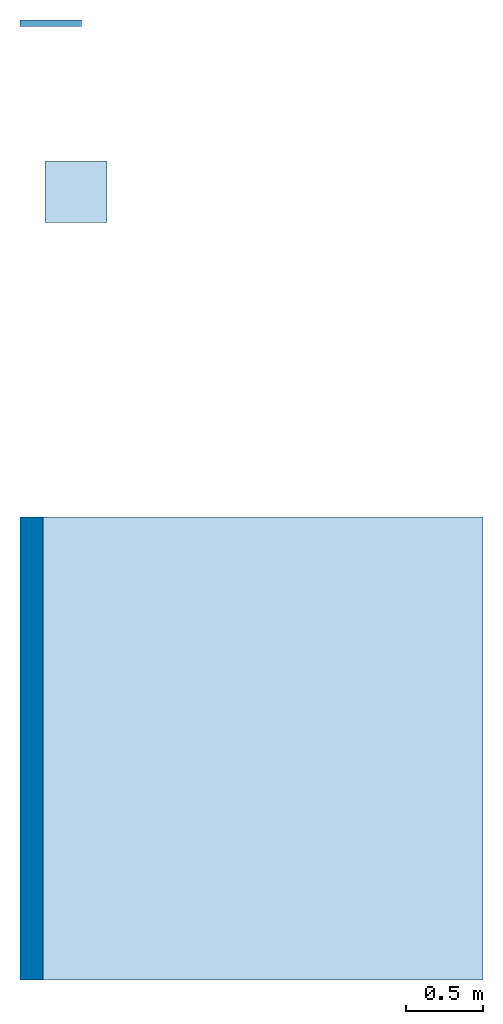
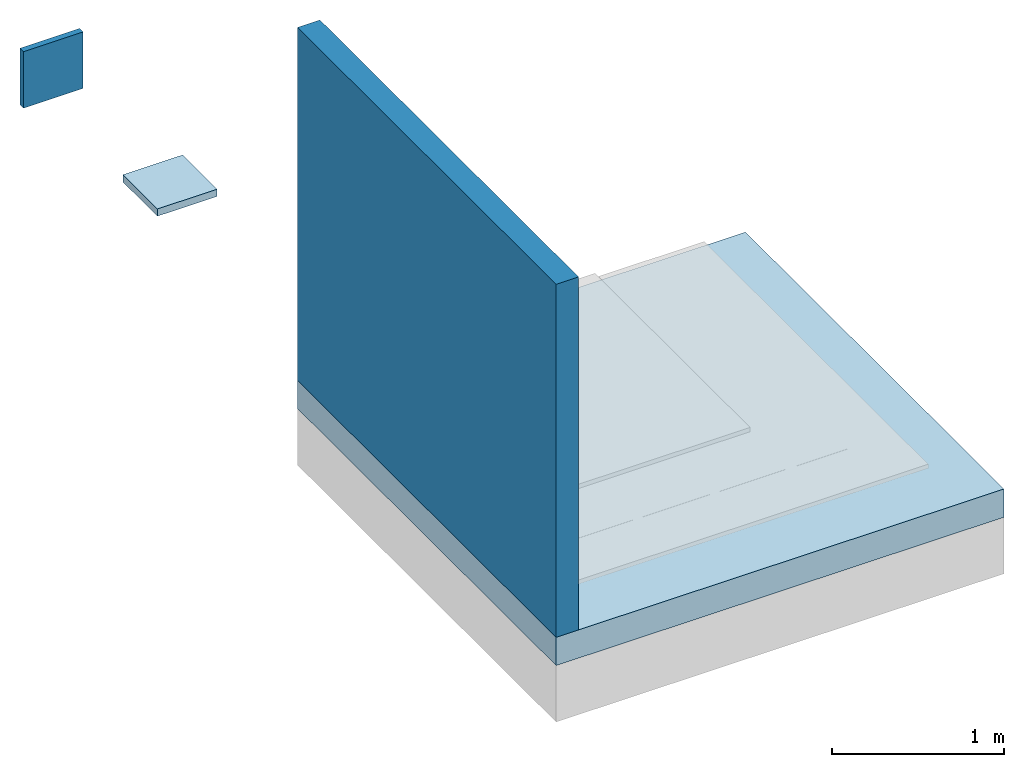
# One storey, part 1 of 2: 2 slabs, 2 walls.
"""IFC2X3 building model written with IfcOpenShell, lengths in metres."""

import ifcopenshell
import ifcopenshell.guid

model = None  # the IFC model being written
_history = None  # IfcOwnerHistory: only IFC2X3 demands one
_inside = {}  # id of a spatial element -> (the spatial element, [elements in it])
_under = {}  # id of a project, library or spatial element -> (it, [spatial elements below it])
_declared = {}  # id of a project -> (the project, [libraries it declares])
_typed = {}  # id of a type object -> (the type object, [elements of that type])
_made_of = {}  # id of a material, layer set ... -> (it, [elements and type objects made of it])


def new_model(schema):
    """Start an empty IFC model of exactly this schema.

    Asked for "IFC4X3", IfcOpenShell would pick the latest addendum, in which some entities
    have other attributes; the version numbers below select the first issue.
    IFC2X3 requires an IfcOwnerHistory on every rooted entity: one is made here for all.
    """
    global model, _history
    if schema == "IFC4X3":
        model = ifcopenshell.file(schema_version=(4, 3, 0, 0))
    else:
        model = ifcopenshell.file(schema=schema)
    _inside.clear()
    _under.clear()
    _declared.clear()
    _typed.clear()
    _made_of.clear()
    _history = None
    if model.schema == "IFC2X3":
        org = make("IfcOrganization", Name="unknown")
        user = make(
            "IfcPersonAndOrganization",
            ThePerson=make("IfcPerson", FamilyName="unknown"),
            TheOrganization=org,
        )
        app = make(
            "IfcApplication",
            ApplicationDeveloper=org,
            Version="unknown",
            ApplicationFullName="unknown",
            ApplicationIdentifier="unknown",
        )
        _history = make(
            "IfcOwnerHistory",
            OwningUser=user,
            OwningApplication=app,
            ChangeAction="ADDED",
            CreationDate=0,
        )
    return model


def make(cls, **values):
    """One entity of the class cls with the attributes given. An attribute that is None is left unset."""
    return model.create_entity(
        cls, **{name: value for name, value in values.items() if value is not None}
    )


def entity(cls, *values):
    """Any entity or typed value of the class cls, its attributes in the order of the schema. None: left unset."""
    e = model.create_entity(cls)
    for i, value in enumerate(values):
        if value is not None:
            e[i] = value
    return e


def rooted(cls, **values):
    """An entity with a GlobalId (a new one), such as an element, a storey or a relation."""
    return make(cls, GlobalId=ifcopenshell.guid.new(), OwnerHistory=_history, **values)


def si_unit(unit_type, name, prefix=None):
    """IfcSIUnit, for example si_unit("LENGTHUNIT", "METRE", prefix="MILLI")."""
    return make("IfcSIUnit", UnitType=unit_type, Prefix=prefix, Name=name)


def converted_unit(unit_type, name, factor, base, dimensions=None, offset=None):
    """IfcConversionBasedUnit, such as the inch: factor (a typed value) times the base unit."""
    return make(
        "IfcConversionBasedUnit"
        if offset is None
        else "IfcConversionBasedUnitWithOffset",
        ConversionOffset=offset,
        Dimensions=None
        if dimensions is None
        else entity("IfcDimensionalExponents", *dimensions),
        UnitType=unit_type,
        Name=name,
        ConversionFactor=make(
            "IfcMeasureWithUnit", ValueComponent=factor, UnitComponent=base
        ),
    )


def derived_unit(unit_type, elements):
    """IfcDerivedUnit: a product of units, each with its exponent."""
    return make(
        "IfcDerivedUnit",
        Elements=[
            make("IfcDerivedUnitElement", Unit=unit, Exponent=power)
            for unit, power in elements
        ],
        UnitType=unit_type,
    )


def assignment(units):
    """IfcUnitAssignment: the units of a project."""
    return None if units is None else make("IfcUnitAssignment", Units=units)


def point(xyz):
    """IfcCartesianPoint."""
    return None if xyz is None else make("IfcCartesianPoint", Coordinates=xyz)


def direction(xyz):
    """IfcDirection."""
    return None if xyz is None else make("IfcDirection", DirectionRatios=xyz)


def frame(location, z_axis=None, x_axis=None):
    """IfcAxis2Placement3D, a coordinate frame: its origin and axes. An axis left out is left unset."""
    return make(
        "IfcAxis2Placement3D",
        Location=point(location),
        Axis=direction(z_axis),
        RefDirection=direction(x_axis),
    )


def frame_2d(location, x_axis=None):
    """IfcAxis2Placement2D, a coordinate frame in the plane: its origin and x axis."""
    return make(
        "IfcAxis2Placement2D", Location=point(location), RefDirection=direction(x_axis)
    )


def origin():
    """The frame at (0, 0, 0) with its axes left unset."""
    return frame((0.0, 0.0, 0.0))


def origin_2d_with_axis():
    """The frame at (0, 0) in the plane with the x axis (1, 0) written out."""
    return frame_2d((0.0, 0.0), x_axis=(1.0, 0.0))


def place(relative_to, where):
    """IfcLocalPlacement: puts the frame where relative to a parent placement (None: the world)."""
    return make(
        "IfcLocalPlacement", PlacementRelTo=relative_to, RelativePlacement=where
    )


def context(
    kind, dimensions, precision=None, world=None, true_north=None, identifier=None
):
    """IfcGeometricRepresentationContext, for example the 3D "Model" context."""
    return make(
        "IfcGeometricRepresentationContext",
        ContextIdentifier=identifier,
        ContextType=kind,
        CoordinateSpaceDimension=dimensions,
        Precision=precision,
        WorldCoordinateSystem=world,
        TrueNorth=true_north,
    )


def subcontext(parent, identifier, kind, view, scale=None):
    """IfcGeometricRepresentationSubContext, for example "Body" below "Model"."""
    return make(
        "IfcGeometricRepresentationSubContext",
        ContextIdentifier=identifier,
        ContextType=kind,
        ParentContext=parent,
        TargetScale=scale,
        TargetView=view,
    )


def project(units=None, contexts=None):
    """IfcProject with its units and contexts."""
    return rooted(
        "IfcProject",
        Name="project",
        RepresentationContexts=contexts,
        UnitsInContext=assignment(units),
    )


def spatial(cls, under=None, at=None, **own):
    """A site, building, storey or space (cls), placed at a placement, below another one or the project."""
    s = rooted(cls, ObjectPlacement=at, **own)
    if under is not None:
        _under.setdefault(under.id(), (under, []))[1].append(s)
    return s


def profile(cls, at=None, kind="AREA", **sizes):
    """A parametric profile (cls). Its sizes go by their IFC names, for example OverallWidth=200.0."""
    return make(cls, ProfileType=kind, Position=at, **sizes)


def rectangle(**sizes):
    """IfcRectangleProfileDef."""
    return profile("IfcRectangleProfileDef", **sizes)


def extrude(swept, where, along, depth):
    """IfcExtrudedAreaSolid: the profile swept, set in the frame where, extruded along a direction by depth."""
    return make(
        "IfcExtrudedAreaSolid",
        SweptArea=swept,
        Position=where,
        ExtrudedDirection=direction(along),
        Depth=depth,
    )


def shape(context_of_items, identifier, shape_type, items):
    """IfcShapeRepresentation: the items that make up one representation, for example the "Body"."""
    return make(
        "IfcShapeRepresentation",
        ContextOfItems=context_of_items,
        RepresentationIdentifier=identifier,
        RepresentationType=shape_type,
        Items=items,
    )


def material(Name=None, Category=None):
    """IfcMaterial."""
    return make("IfcMaterial", Name=Name, Category=Category)


def layer(
    of_material, thickness, ventilated=None, Name=None, Category=None, Priority=None
):
    """IfcMaterialLayer: one layer of a wall or slab, of a material (None: an air gap)."""
    return make(
        "IfcMaterialLayer",
        Material=of_material,
        LayerThickness=thickness,
        IsVentilated=ventilated,
        Name=Name,
        Category=Category,
        Priority=Priority,
    )


def layer_set(layers, Name=None):
    """IfcMaterialLayerSet."""
    return make("IfcMaterialLayerSet", MaterialLayers=layers, LayerSetName=Name)


def layer_usage(for_layer_set, set_direction, sense, offset, extent=None):
    """IfcMaterialLayerSetUsage: how a layer set lies in its element."""
    return make(
        "IfcMaterialLayerSetUsage",
        ForLayerSet=for_layer_set,
        LayerSetDirection=set_direction,
        DirectionSense=sense,
        OffsetFromReferenceLine=offset,
        ReferenceExtent=extent,
    )


def made_of(thing, what):
    """Note that an element or type object is made of a material, layer set ...; save() writes the relation."""
    if what is not None:
        _made_of.setdefault(what.id(), (what, []))[1].append(thing)
    return thing


def type_object(cls, material=None, **own):
    """A type object (cls), such as IfcWallType, which elements share."""
    return made_of(rooted(cls, **own), material)


def element(
    cls,
    number,
    at=None,
    inside=None,
    cuts=None,
    type_object=None,
    material=None,
    context=None,
    identifier="Body",
    shape_type=None,
    held_by="IfcProductDefinitionShape",
    body=None,
    shapes=None,
    **own,
):
    """One element of the class cls, such as IfcWall. Its Tag is "e" and its number.

    at: its placement. inside: the storey or other place that contains it. cuts: it is an
    opening in that element (IfcRelVoidsElement). A single representation is given by context,
    identifier, shape_type and body (its items); several are given by shapes. held_by: the class
    of the entity that holds the representations. save() writes the other relations.
    """
    e = rooted(cls, Tag="e%d" % number, ObjectPlacement=at, **own)
    if body is not None:
        shapes = [shape(context, identifier, shape_type, body)]
    if shapes is not None:
        e.Representation = make(held_by, Representations=shapes)
    if inside is not None:
        _inside.setdefault(inside.id(), (inside, []))[1].append(e)
    if cuts is not None:
        rooted(
            "IfcRelVoidsElement", RelatingBuildingElement=cuts, RelatedOpeningElement=e
        )
    if type_object is not None:
        _typed.setdefault(type_object.id(), (type_object, []))[1].append(e)
    return made_of(e, material)


def aggregate(whole, parts):
    """IfcRelAggregates: a whole, such as a stair, and the parts it consists of."""
    return rooted("IfcRelAggregates", RelatingObject=whole, RelatedObjects=parts)


def save(model, path):
    """Write the relations noted so far, then the file.

    IfcRelAggregates (storeys below a building ...), IfcRelContainedInSpatialStructure (elements
    in a storey), IfcRelDefinesByType, IfcRelAssociatesMaterial and IfcRelDeclares: one each for
    every whole, place, type object, material and project.
    """
    for whole, parts in _under.values():
        aggregate(whole, parts)
    for where, things in _inside.values():
        rooted(
            "IfcRelContainedInSpatialStructure",
            RelatedElements=things,
            RelatingStructure=where,
        )
    for kind, things in _typed.values():
        rooted("IfcRelDefinesByType", RelatedObjects=things, RelatingType=kind)
    for what, things in _made_of.values():
        rooted("IfcRelAssociatesMaterial", RelatedObjects=things, RelatingMaterial=what)
    for by, libraries in _declared.values():
        rooted("IfcRelDeclares", RelatingContext=by, RelatedDefinitions=libraries)
    model.write(path)


model = new_model("IFC2X3")

# Units and contexts
model_context = context("Model", 3, precision=1e-05, world=origin(), true_north=direction((6.123031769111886e-17, 1.0)))
body_context = subcontext(model_context, "Body", "Model", "MODEL_VIEW")
ifc_project = project(units=[si_unit("LENGTHUNIT", "METRE"), si_unit("AREAUNIT", "SQUARE_METRE"), si_unit("VOLUMEUNIT", "CUBIC_METRE"), converted_unit("PLANEANGLEUNIT", "DEGREE", entity("IfcRatioMeasure", 0.017453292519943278), si_unit("PLANEANGLEUNIT", "RADIAN"), dimensions=[0, 0, 0, 0, 0, 0, 0]), si_unit("MASSUNIT", "GRAM", prefix="KILO"), derived_unit("MASSDENSITYUNIT", [(si_unit("MASSUNIT", "GRAM", prefix="KILO"), 1), (si_unit("LENGTHUNIT", "METRE"), -3)]), derived_unit("IONCONCENTRATIONUNIT", [(si_unit("MASSUNIT", "GRAM", prefix="KILO"), 1), (si_unit("LENGTHUNIT", "METRE"), -3)]), derived_unit("MOMENTOFINERTIAUNIT", [(si_unit("LENGTHUNIT", "METRE"), 4)]), si_unit("TIMEUNIT", "SECOND"), si_unit("FREQUENCYUNIT", "HERTZ"), si_unit("THERMODYNAMICTEMPERATUREUNIT", "DEGREE_CELSIUS"), derived_unit("THERMALTRANSMITTANCEUNIT", [(si_unit("MASSUNIT", "GRAM", prefix="KILO"), 1), (si_unit("THERMODYNAMICTEMPERATUREUNIT", "KELVIN"), -1), (si_unit("TIMEUNIT", "SECOND"), -3)]), derived_unit("THERMALCONDUCTANCEUNIT", [(si_unit("MASSUNIT", "GRAM", prefix="KILO"), 1), (si_unit("THERMODYNAMICTEMPERATUREUNIT", "KELVIN"), -1), (si_unit("TIMEUNIT", "SECOND"), -3), (si_unit("LENGTHUNIT", "METRE"), 1)]), derived_unit("VOLUMETRICFLOWRATEUNIT", [(si_unit("LENGTHUNIT", "METRE"), 3), (si_unit("TIMEUNIT", "SECOND"), -1)]), derived_unit("MASSFLOWRATEUNIT", [(si_unit("MASSUNIT", "GRAM", prefix="KILO"), 1), (si_unit("TIMEUNIT", "SECOND"), -1)]), derived_unit("ROTATIONALFREQUENCYUNIT", [(si_unit("TIMEUNIT", "SECOND"), -1)]), si_unit("ELECTRICCURRENTUNIT", "AMPERE"), si_unit("ELECTRICVOLTAGEUNIT", "VOLT"), si_unit("POWERUNIT", "WATT"), si_unit("FORCEUNIT", "NEWTON", prefix="KILO"), si_unit("ILLUMINANCEUNIT", "LUX"), si_unit("LUMINOUSFLUXUNIT", "LUMEN"), si_unit("LUMINOUSINTENSITYUNIT", "CANDELA"), derived_unit("USERDEFINED", [(si_unit("MASSUNIT", "GRAM", prefix="KILO"), -1), (si_unit("LENGTHUNIT", "METRE"), -2), (si_unit("TIMEUNIT", "SECOND"), 3), (si_unit("LUMINOUSFLUXUNIT", "LUMEN"), 1)]), derived_unit("USERDEFINED", [(si_unit("MASSUNIT", "GRAM", prefix="KILO"), 1), (si_unit("TIMEUNIT", "SECOND"), -3), (si_unit("LENGTHUNIT", "METRE"), 3), (si_unit("ELECTRICCURRENTUNIT", "AMPERE"), -2)]), derived_unit("SOUNDPOWERUNIT", [(si_unit("MASSUNIT", "GRAM", prefix="KILO"), 1), (si_unit("TIMEUNIT", "SECOND"), -3), (si_unit("LENGTHUNIT", "METRE"), 2)]), derived_unit("SOUNDPRESSUREUNIT", [(si_unit("MASSUNIT", "GRAM", prefix="KILO"), 1), (si_unit("LENGTHUNIT", "METRE"), -1), (si_unit("TIMEUNIT", "SECOND"), -2)]), derived_unit("LINEARVELOCITYUNIT", [(si_unit("LENGTHUNIT", "METRE"), 1), (si_unit("TIMEUNIT", "SECOND"), -1)]), si_unit("PRESSUREUNIT", "PASCAL"), derived_unit("USERDEFINED", [(si_unit("MASSUNIT", "GRAM", prefix="KILO"), 1), (si_unit("LENGTHUNIT", "METRE"), -2), (si_unit("TIMEUNIT", "SECOND"), -2)]), derived_unit("LINEARFORCEUNIT", [(si_unit("MASSUNIT", "GRAM", prefix="KILO"), 1), (si_unit("TIMEUNIT", "SECOND"), -2)]), derived_unit("PLANARFORCEUNIT", [(si_unit("MASSUNIT", "GRAM", prefix="KILO"), 1), (si_unit("LENGTHUNIT", "METRE"), -1), (si_unit("TIMEUNIT", "SECOND"), -2)]), derived_unit("SPECIFICHEATCAPACITYUNIT", [(si_unit("THERMODYNAMICTEMPERATUREUNIT", "KELVIN"), -1), (si_unit("LENGTHUNIT", "METRE"), 2), (si_unit("TIMEUNIT", "SECOND"), -2)]), derived_unit("HEATINGVALUEUNIT", [(si_unit("LENGTHUNIT", "METRE"), 2), (si_unit("TIMEUNIT", "SECOND"), -2)]), derived_unit("VAPORPERMEABILITYUNIT", [(si_unit("LENGTHUNIT", "METRE"), -1), (si_unit("TIMEUNIT", "SECOND"), 1)]), derived_unit("DYNAMICVISCOSITYUNIT", [(si_unit("MASSUNIT", "GRAM", prefix="KILO"), 1), (si_unit("TIMEUNIT", "SECOND"), -1), (si_unit("LENGTHUNIT", "METRE"), -1)]), derived_unit("THERMALEXPANSIONCOEFFICIENTUNIT", [(si_unit("THERMODYNAMICTEMPERATUREUNIT", "KELVIN"), -1)]), derived_unit("MODULUSOFELASTICITYUNIT", [(si_unit("MASSUNIT", "GRAM", prefix="KILO"), 1), (si_unit("LENGTHUNIT", "METRE"), -1), (si_unit("TIMEUNIT", "SECOND"), -2)]), derived_unit("ISOTHERMALMOISTURECAPACITYUNIT", [(si_unit("LENGTHUNIT", "METRE"), 3), (si_unit("MASSUNIT", "GRAM", prefix="KILO"), -1)]), derived_unit("MOISTUREDIFFUSIVITYUNIT", [(si_unit("TIMEUNIT", "SECOND"), -1), (si_unit("LENGTHUNIT", "METRE"), 2)])], contexts=[model_context])

# Site, building, storey
site_placement = place(None, origin())
site = spatial("IfcSite", under=ifc_project, at=site_placement, Name="Default", CompositionType="ELEMENT")
building_placement = place(site_placement, origin())
building = spatial("IfcBuilding", under=site, at=building_placement, CompositionType="ELEMENT")
storey_placement = place(building_placement, frame((0.0, 0.0, -0.0025237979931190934)))
storey = spatial("IfcBuildingStorey", under=building, at=storey_placement, Name="ARQ Térreo", CompositionType="ELEMENT", Elevation=-0.0025237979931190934)

# Slabs
ifc_material_1 = material(Name="#concreto")
ifc_layer_1 = layer(ifc_material_1, 0.2)
ifc_layer_set_1 = layer_set([ifc_layer_1], Name="Piso:Piso:LAJE CONCRETO")
ifc_layer_usage_1 = layer_usage(ifc_layer_set_1, "AXIS3", "POSITIVE", 0.0)
slab_type_1 = type_object("IfcSlabType", Name="Piso:Piso:LAJE CONCRETO", PredefinedType="FLOOR", material=ifc_layer_set_1)
slab_1_placement = place(storey_placement, origin())
element("IfcSlab", 1, at=slab_1_placement, inside=storey, type_object=slab_type_1, material=ifc_layer_usage_1, Name="Piso:Piso:LAJE CONCRETO", ObjectType="Piso:Piso:LAJE CONCRETO", PredefinedType="FLOOR", context=body_context, shape_type="SweptSolid", body=[
    extrude(rectangle(XDim=3.0000000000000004, YDim=3.0000000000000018, at=origin_2d_with_axis()), frame((0.9980295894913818, -1.354129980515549, 0.0), z_axis=(0.0, 0.0, -1.0), x_axis=(0.0, 1.0, 0.0)), (0.0, 0.0, 1.0), 0.2),
])
ifc_material_2 = material(Name="#Proteção Mecânica")
ifc_layer_2 = layer(ifc_material_2, 0.03)
ifc_material_3 = material(Name="#Viaplus 1000")
ifc_layer_3 = layer(ifc_material_3, 0.0009999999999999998)
ifc_material_4 = material(Name="#argamassa")
ifc_layer_4 = layer(ifc_material_4, 0.02)
ifc_layer_set_2 = layer_set([ifc_layer_2, ifc_layer_3, ifc_layer_4], Name="Piso:IMPH_VP2000")
ifc_layer_usage_2 = layer_usage(ifc_layer_set_2, "AXIS3", "POSITIVE", 0.0)
slab_type_2 = type_object("IfcSlabType", Name="Piso:IMPH_VP2000", PredefinedType="FLOOR", material=ifc_layer_set_2)
slab_2_placement = place(storey_placement, origin())
element("IfcSlab", 2, at=slab_2_placement, inside=storey, type_object=slab_type_2, material=ifc_layer_usage_2, Name="Piso:IMPH_VP2000", ObjectType="Piso:IMPH_VP2000", PredefinedType="FLOOR", context=body_context, shape_type="SweptSolid", body=[
    extrude(rectangle(XDim=0.4, YDim=0.4, at=origin_2d_with_axis()), frame((-0.13947178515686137, 2.254124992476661, 0.0), z_axis=(0.0, 0.0, -1.0), x_axis=(0.0, 1.0, 0.0)), (0.0, 0.0, 1.0), 0.051),
])

# Walls
ifc_layer_5 = layer(ifc_material_1, 0.14999999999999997)
ifc_layer_set_3 = layer_set([ifc_layer_5], Name="Parede básica:Parede básica:Parede Concreto")
ifc_layer_usage_3 = layer_usage(ifc_layer_set_3, "AXIS2", "NEGATIVE", 0.07499999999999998)
wall_type_1 = type_object("IfcWallType", Name="Parede básica:Parede básica:Parede Concreto", PredefinedType="STANDARD", material=ifc_layer_set_3)
wall_1_placement = place(storey_placement, frame((-0.4269704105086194, 0.14587001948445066, 0.0), z_axis=(0.0, 0.0, 1.0), x_axis=(0.0, -1.0, 0.0)))
element("IfcWallStandardCase", 3, at=wall_1_placement, inside=storey, type_object=wall_type_1, material=ifc_layer_usage_3, Name="Parede básica:Parede Concreto", ObjectType="Parede básica:Parede Concreto", context=body_context, shape_type="SweptSolid", body=[
    extrude(rectangle(XDim=2.9999999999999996, YDim=0.15000000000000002, at=frame_2d((1.4999999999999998, 0.0), x_axis=(-1.0, 0.0))), origin(), (0.0, 0.0, 1.0), 2.4999999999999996),
])
ifc_layer_6 = layer(ifc_material_2, 0.03)
ifc_layer_7 = layer(ifc_material_3, 0.0009999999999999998)
ifc_layer_8 = layer(ifc_material_4, 0.01)
ifc_layer_set_4 = layer_set([ifc_layer_6, ifc_layer_7, ifc_layer_8], Name="Parede básica:IMPV_VP2000")
ifc_layer_usage_4 = layer_usage(ifc_layer_set_4, "AXIS2", "POSITIVE", -0.0205)
wall_type_2 = type_object("IfcWallType", Name="Parede básica:IMPV_VP2000", PredefinedType="STANDARD", material=ifc_layer_set_4)
wall_2_placement = place(storey_placement, frame((-0.5019704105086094, 3.345870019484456, 0.0)))
element("IfcWallStandardCase", 4, at=wall_2_placement, inside=storey, type_object=wall_type_2, material=ifc_layer_usage_4, Name="Parede básica:IMPV_VP1000", ObjectType="Parede básica:IMPV_VP1000", context=body_context, shape_type="SweptSolid", body=[
    extrude(rectangle(XDim=0.4, YDim=0.041000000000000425, at=frame_2d((0.2, -6.938893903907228e-17), x_axis=(-1.0, 0.0))), origin(), (0.0, 0.0, 1.0), 0.4),
])

save(model, "model.ifc")
